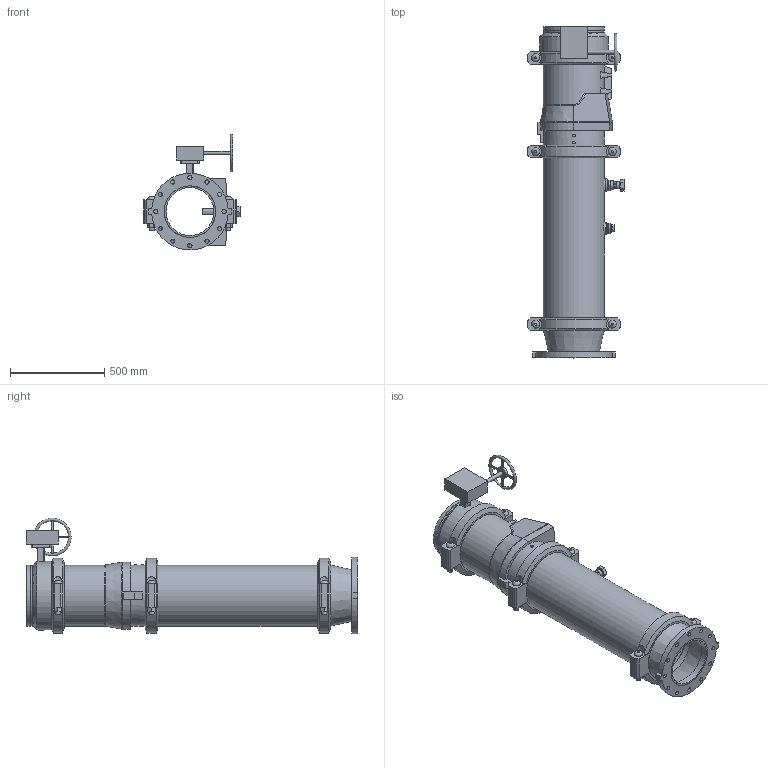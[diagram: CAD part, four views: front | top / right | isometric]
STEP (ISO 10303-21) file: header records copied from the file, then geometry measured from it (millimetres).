
FILE_DESCRIPTION(/* description */ ('VIC DVI PUMP DROP VERT S/380 (OGSxFLG) (S/924-1.25)','CAx-IF Rec.Pracs.---Representation and Presentation of Product Manufacturing Information (PMI)---4.0---2014-10-13'),/* implementation_level */ '2;1');
FILE_NAME(/* name */ 'C:\Users\Public\Documents\Victaulic.Temp\A765\Victaulic_IPS_Vertical DVI_CL 150_Series 380 (OGSxFLG)_924 (1.25)_12.0x10.0 (300x250).stp',/* time_stamp */ '2022-07-25T11:15:07+02:00',/* author */ ('Vjadhav'),/* organization */ ('Victaulic'),/* preprocessor_version */ 'ST-DEVELOPER v18',/* originating_system */ 'Autodesk Inventor 2020',/* authorisation */ '');
FILE_SCHEMA (('AP242_MANAGED_MODEL_BASED_3D_ENGINEERING_MIM_LF { 1 0 10303 442 1 1 4 }'));
Length unit declared in the file: inch
Products named in the file (9): 380_924 (1.25)-12.0x10.0; 741-10.0; 050-12.0x10.0; Pipe-12.0; 779-12.0; 923-10.0x0.75; 924-10.0x01.25; 761-12.0; 077-12.0
Assembly tree (10 placements, depth 2):
  380_924 (1.25)-12.0x10.0
    741-10.0
    050-12.0x10.0
    Pipe-12.0
    779-12.0
    923-10.0x0.75
    924-10.0x01.25
    761-12.0
    077-12.0  x3
Bounding box: 511.05 x 1760.22 x 614.15 mm (x, y, z)
Volume: 38824058.7 mm3; surface area: 5166558.6 mm2
Topology: 10 solids, 18 shells, 512 faces, 1284 edges, 875 vertices
Faces by surface type: plane 310, cylinder 167, cone 20, bspline 8, torus 7
Full cylindrical faces by diameter (mm): 10.922 x4, 13.716 x4, 20.066 x1, 21.336 x2, 22.225 x12, 22.86 x1, 25.4 x12, 26.67 x2, 27.432 x6, 31.75 x1, 38.608 x1, 42.164 x1, 45.974 x4, 48.514 x1, 55.626 x2, 63.079 x1, 70.104 x1, 76.2 x1, 254.508 x1, 268.275 x1, 273.05 x3, 303.225 x2, 304.8 x2, 314.96 x3, 318.287 x7, 323.85 x19, 361.95 x1
Entity records: 13323 total; most frequent: CARTESIAN_POINT 2639, DIRECTION 2173, ORIENTED_EDGE 1988, EDGE_CURVE 994, AXIS2_PLACEMENT_3D 827, VERTEX_POINT 679, LINE 519, VECTOR 519
